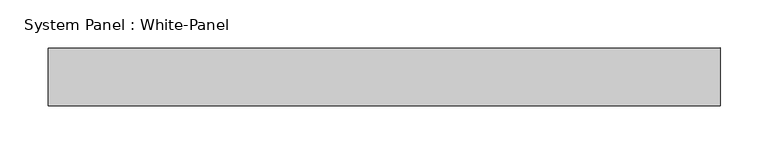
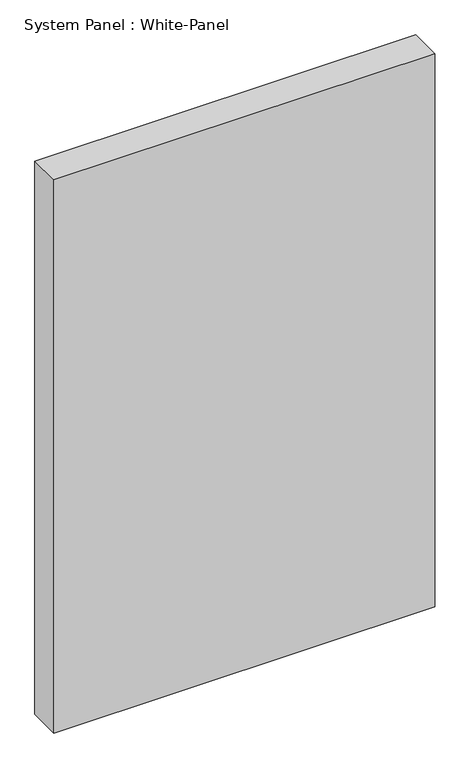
"""IFC4 building model written with IfcOpenShell, lengths in millimetres: plate geometry, System Panel : White-Panel."""

from ifc_helpers import new_model, si_unit, origin, origin_with_axes, place, context, project, spatial, polyline, outline, extrude, source, transform, mapped, element, save


def system_panel_white_panel_a9ca731a(model_context):
    return source(origin(), model_context, "Body", "SweptSolid", [
        extrude(outline(polyline([(350.0, -10.5), (-350.0, -10.5), (-350.0, 49.5), (350.0, 49.5), (350.0, -10.5)])), origin_with_axes(), (0.0, 0.0, 1.0), 1075.0),
    ])


if __name__ == "__main__":
    model = new_model("IFC4")
    model_context = context("Model", 3, world=origin())
    ifc_project = project(units=[si_unit("LENGTHUNIT", "METRE", prefix="MILLI")], contexts=[model_context])
    site = spatial("IfcSite", under=ifc_project)
    building = spatial("IfcBuilding", under=site)
    placement = place(None, origin())
    system_panel_white_panel_shape = system_panel_white_panel_a9ca731a(model_context)
    element("IfcPlate", 1, ObjectType="System Panel : White-Panel", at=placement, inside=building, context=model_context, shape_type="MappedRepresentation", body=[
        mapped(system_panel_white_panel_shape, transform((0.0, 0.0, 0.0), x_axis=(1.0, 0.0, 0.0), y_axis=(0.0, 1.0, 0.0), z_axis=(0.0, 0.0, 1.0))),
    ])
    save(model, "model.ifc")
